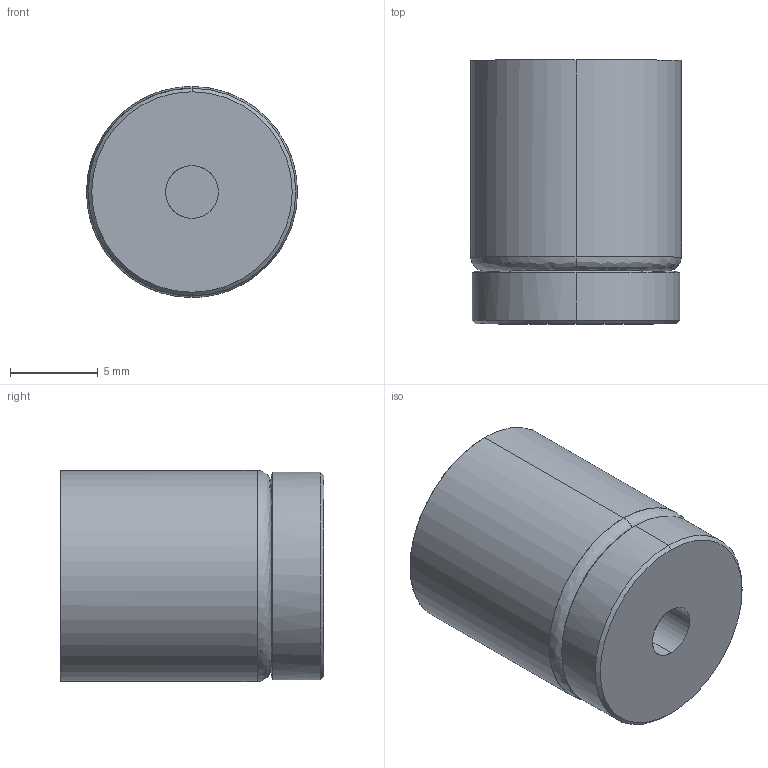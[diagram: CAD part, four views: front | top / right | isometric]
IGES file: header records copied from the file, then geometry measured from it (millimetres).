
Start section: START RECORD GO HERE.
Global section: file name: vh121015.igs; native system: DASSAULT SYSTEMES CATIA V5 R20 - www.3ds.com; preprocessor: CATIA Version 5 Release 20 ; author: Utente; organization: NB04-ASUS; date: 20201107.134456; units: millimetre
Bounding box: 12 x 15 x 12 mm (x, y, z)
Surface area: 1682.6 mm2 (no closed solid volume)
Topology: 0 solids, 0 shells, 72 faces, 324 edges, 324 vertices
Faces by surface type: revolution 39, plane 29, bspline 4
